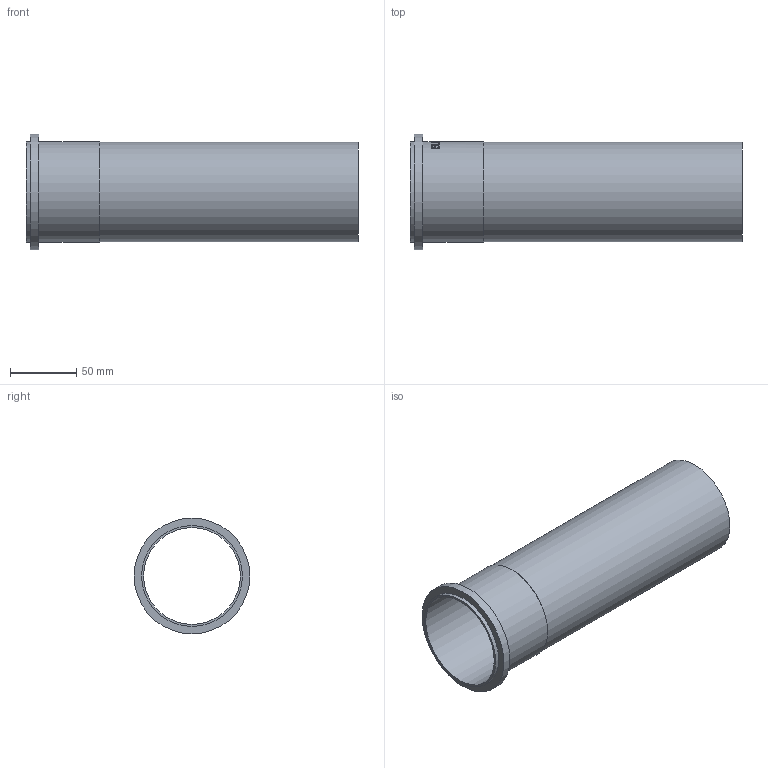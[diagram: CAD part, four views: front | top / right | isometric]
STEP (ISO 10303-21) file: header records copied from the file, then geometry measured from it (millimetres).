
FILE_DESCRIPTION((''),'2;1');
FILE_NAME('I:\WATTS\3D_CAD\3D_CAD_Models\Blucher_Drains\P_StraightPipe\WebsiteFiles\3D\STEP\P3-0.8-316.stp','2009-12-02T13:32:55',('menesek'),(''),'Autodesk Inventor 2010','Autodesk Inventor 2010','');
FILE_SCHEMA(('AUTOMOTIVE_DESIGN { 1 0 10303 214 1 1 1 1 }'));
Length unit declared in the file: inch
Products named in the file (1): P3-0.8-316
Bounding box: 250 x 87.12 x 87.12 mm (x, y, z)
Volume: 74715.2 mm3; surface area: 120134.8 mm2
Topology: 1 solids, 1 shells, 109 faces, 285 edges, 190 vertices
Faces by surface type: plane 59, bspline 34, cylinder 16
Full cylindrical faces by diameter (mm): 72.898 x1, 74.93 x1, 75.946 x2, 87.122 x1
Entity records: 13765 total; most frequent: CARTESIAN_POINT 11387, ORIENTED_EDGE 548, DIRECTION 356, EDGE_CURVE 274, VERTEX_POINT 186, EDGE_LOOP 128, AXIS2_PLACEMENT_3D 120, VECTOR 116
